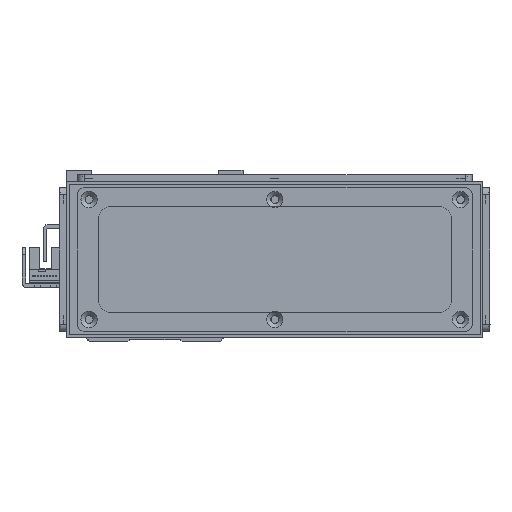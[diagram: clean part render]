
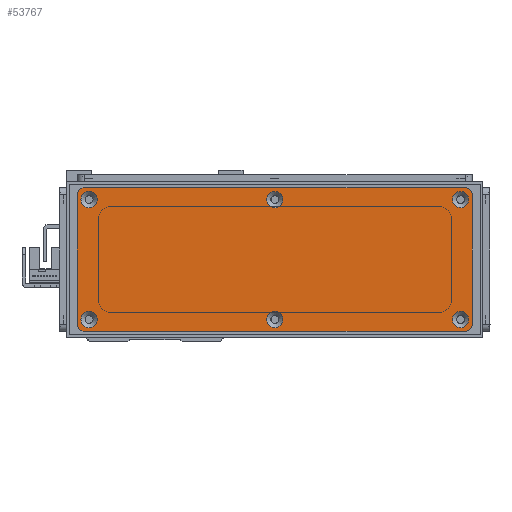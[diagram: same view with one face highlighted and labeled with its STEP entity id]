
A CAD part, left-side view. The second image highlights one B-rep face of the part: STEP entity #53767.
In plain terms, the highlighted planar face has unit normal (-1, 0, 0) as drawn and (0, 0, 1) by its records, which use the part's own axes.
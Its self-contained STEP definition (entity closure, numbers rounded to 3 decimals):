
#2503=FACE_BOUND('',#8942,.T.);
#2504=FACE_BOUND('',#8943,.T.);
#2505=FACE_BOUND('',#8944,.T.);
#2506=FACE_BOUND('',#8945,.T.);
#2507=FACE_BOUND('',#8946,.T.);
#2508=FACE_BOUND('',#8947,.T.);
#3133=PLANE('',#58058);
#5792=FACE_OUTER_BOUND('',#8941,.T.);
#8941=EDGE_LOOP('',(#42690,#42691,#42692,#42693,#42694,#42695,#42696,#42697));
#8942=EDGE_LOOP('',(#42698));
#8943=EDGE_LOOP('',(#42699));
#8944=EDGE_LOOP('',(#42700));
#8945=EDGE_LOOP('',(#42701));
#8946=EDGE_LOOP('',(#42702));
#8947=EDGE_LOOP('',(#42703));
#12407=LINE('',#80841,#18600);
#12410=LINE('',#80849,#18603);
#12413=LINE('',#80857,#18606);
#12416=LINE('',#80864,#18609);
#18600=VECTOR('',#66036,10.);
#18603=VECTOR('',#66045,10.);
#18606=VECTOR('',#66054,10.);
#18609=VECTOR('',#66063,10.);
#24205=CIRCLE('',#58012,3.45);
#24208=CIRCLE('',#58017,3.45);
#24211=CIRCLE('',#58022,3.45);
#24214=CIRCLE('',#58027,3.45);
#24217=CIRCLE('',#58032,3.45);
#24220=CIRCLE('',#58037,3.45);
#24227=CIRCLE('',#58047,3.);
#24228=CIRCLE('',#58050,3.);
#24229=CIRCLE('',#58053,3.);
#24230=CIRCLE('',#58056,3.);
#26272=VERTEX_POINT('',#80757);
#26275=VERTEX_POINT('',#80767);
#26278=VERTEX_POINT('',#80777);
#26281=VERTEX_POINT('',#80787);
#26284=VERTEX_POINT('',#80797);
#26287=VERTEX_POINT('',#80807);
#26298=VERTEX_POINT('',#80834);
#26299=VERTEX_POINT('',#80836);
#26300=VERTEX_POINT('',#80840);
#26301=VERTEX_POINT('',#80844);
#26302=VERTEX_POINT('',#80848);
#26303=VERTEX_POINT('',#80852);
#26304=VERTEX_POINT('',#80856);
#26305=VERTEX_POINT('',#80860);
#32238=EDGE_CURVE('',#26272,#26272,#24205,.T.);
#32243=EDGE_CURVE('',#26275,#26275,#24208,.T.);
#32248=EDGE_CURVE('',#26278,#26278,#24211,.T.);
#32253=EDGE_CURVE('',#26281,#26281,#24214,.T.);
#32258=EDGE_CURVE('',#26284,#26284,#24217,.T.);
#32263=EDGE_CURVE('',#26287,#26287,#24220,.T.);
#32277=EDGE_CURVE('',#26299,#26298,#24227,.T.);
#32279=EDGE_CURVE('',#26300,#26299,#12407,.T.);
#32281=EDGE_CURVE('',#26301,#26300,#24228,.T.);
#32283=EDGE_CURVE('',#26302,#26301,#12410,.T.);
#32285=EDGE_CURVE('',#26303,#26302,#24229,.T.);
#32287=EDGE_CURVE('',#26304,#26303,#12413,.T.);
#32289=EDGE_CURVE('',#26305,#26304,#24230,.T.);
#32291=EDGE_CURVE('',#26298,#26305,#12416,.T.);
#42690=ORIENTED_EDGE('',*,*,#32291,.T.);
#42691=ORIENTED_EDGE('',*,*,#32289,.T.);
#42692=ORIENTED_EDGE('',*,*,#32287,.T.);
#42693=ORIENTED_EDGE('',*,*,#32285,.T.);
#42694=ORIENTED_EDGE('',*,*,#32283,.T.);
#42695=ORIENTED_EDGE('',*,*,#32281,.T.);
#42696=ORIENTED_EDGE('',*,*,#32279,.T.);
#42697=ORIENTED_EDGE('',*,*,#32277,.T.);
#42698=ORIENTED_EDGE('',*,*,#32238,.T.);
#42699=ORIENTED_EDGE('',*,*,#32243,.T.);
#42700=ORIENTED_EDGE('',*,*,#32248,.T.);
#42701=ORIENTED_EDGE('',*,*,#32253,.T.);
#42702=ORIENTED_EDGE('',*,*,#32258,.T.);
#42703=ORIENTED_EDGE('',*,*,#32263,.T.);
#53767=ADVANCED_FACE('',(#5792,#2503,#2504,#2505,#2506,#2507,#2508),#3133,
 .T.);
#58012=AXIS2_PLACEMENT_3D('',#80758,#65944,#65945);
#58017=AXIS2_PLACEMENT_3D('',#80768,#65956,#65957);
#58022=AXIS2_PLACEMENT_3D('',#80778,#65968,#65969);
#58027=AXIS2_PLACEMENT_3D('',#80788,#65980,#65981);
#58032=AXIS2_PLACEMENT_3D('',#80798,#65992,#65993);
#58037=AXIS2_PLACEMENT_3D('',#80808,#66004,#66005);
#58047=AXIS2_PLACEMENT_3D('',#80837,#66031,#66032);
#58050=AXIS2_PLACEMENT_3D('',#80845,#66040,#66041);
#58053=AXIS2_PLACEMENT_3D('',#80853,#66049,#66050);
#58056=AXIS2_PLACEMENT_3D('',#80861,#66058,#66059);
#58058=AXIS2_PLACEMENT_3D('',#80865,#66064,#66065);
#65944=DIRECTION('center_axis',(0.,0.,-1.));
#65945=DIRECTION('ref_axis',(1.,0.,0.));
#65956=DIRECTION('center_axis',(0.,0.,-1.));
#65957=DIRECTION('ref_axis',(1.,0.,0.));
#65968=DIRECTION('center_axis',(0.,0.,-1.));
#65969=DIRECTION('ref_axis',(1.,0.,0.));
#65980=DIRECTION('center_axis',(0.,0.,-1.));
#65981=DIRECTION('ref_axis',(1.,0.,0.));
#65992=DIRECTION('center_axis',(0.,0.,-1.));
#65993=DIRECTION('ref_axis',(1.,0.,0.));
#66004=DIRECTION('center_axis',(0.,0.,-1.));
#66005=DIRECTION('ref_axis',(1.,0.,0.));
#66031=DIRECTION('center_axis',(0.,0.,1.));
#66032=DIRECTION('ref_axis',(-1.,0.,0.));
#66036=DIRECTION('',(0.,1.,0.));
#66040=DIRECTION('center_axis',(0.,0.,1.));
#66041=DIRECTION('ref_axis',(0.,1.,0.));
#66045=DIRECTION('',(1.,0.,0.));
#66049=DIRECTION('center_axis',(0.,0.,1.));
#66050=DIRECTION('ref_axis',(1.,0.,0.));
#66054=DIRECTION('',(0.,-1.,0.));
#66058=DIRECTION('center_axis',(0.,0.,1.));
#66059=DIRECTION('ref_axis',(0.,-1.,0.));
#66063=DIRECTION('',(-1.,0.,0.));
#66064=DIRECTION('center_axis',(0.,0.,1.));
#66065=DIRECTION('ref_axis',(1.,0.,0.));
#80757=CARTESIAN_POINT('',(-3.45,25.5,1.5));
#80758=CARTESIAN_POINT('Origin',(0.,25.5,1.5));
#80767=CARTESIAN_POINT('',(75.55,-25.5,1.5));
#80768=CARTESIAN_POINT('Origin',(79.,-25.5,1.5));
#80777=CARTESIAN_POINT('',(-82.45,25.5,1.5));
#80778=CARTESIAN_POINT('Origin',(-79.,25.5,1.5));
#80787=CARTESIAN_POINT('',(75.55,25.5,1.5));
#80788=CARTESIAN_POINT('Origin',(79.,25.5,1.5));
#80797=CARTESIAN_POINT('',(-82.45,-25.5,1.5));
#80798=CARTESIAN_POINT('Origin',(-79.,-25.5,1.5));
#80807=CARTESIAN_POINT('',(-3.45,-25.5,1.5));
#80808=CARTESIAN_POINT('Origin',(0.,-25.5,1.5));
#80834=CARTESIAN_POINT('',(81.,30.5,1.5));
#80836=CARTESIAN_POINT('',(84.,27.5,1.5));
#80837=CARTESIAN_POINT('Origin',(81.,27.5,1.5));
#80840=CARTESIAN_POINT('',(84.,-27.5,1.5));
#80841=CARTESIAN_POINT('',(84.,27.5,1.5));
#80844=CARTESIAN_POINT('',(81.,-30.5,1.5));
#80845=CARTESIAN_POINT('Origin',(81.,-27.5,1.5));
#80848=CARTESIAN_POINT('',(-81.,-30.5,1.5));
#80849=CARTESIAN_POINT('',(81.,-30.5,1.5));
#80852=CARTESIAN_POINT('',(-84.,-27.5,1.5));
#80853=CARTESIAN_POINT('Origin',(-81.,-27.5,1.5));
#80856=CARTESIAN_POINT('',(-84.,27.5,1.5));
#80857=CARTESIAN_POINT('',(-84.,-27.5,1.5));
#80860=CARTESIAN_POINT('',(-81.,30.5,1.5));
#80861=CARTESIAN_POINT('Origin',(-81.,27.5,1.5));
#80864=CARTESIAN_POINT('',(-81.,30.5,1.5));
#80865=CARTESIAN_POINT('Origin',(0.,0.,
1.5));
